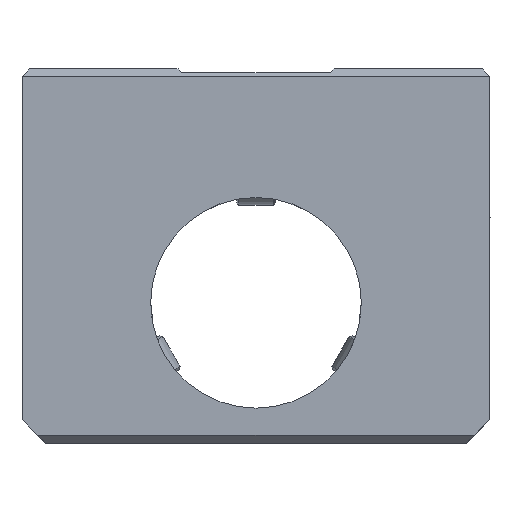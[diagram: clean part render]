
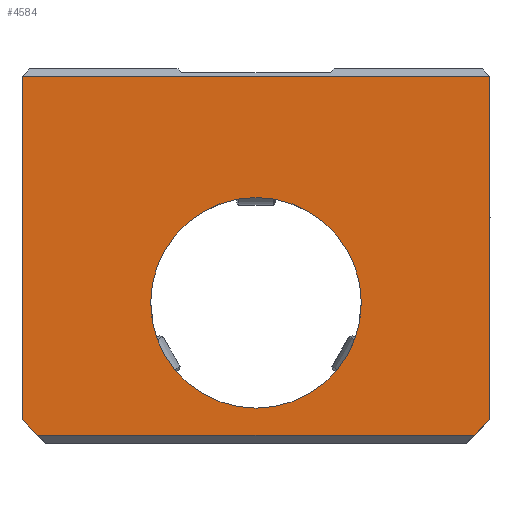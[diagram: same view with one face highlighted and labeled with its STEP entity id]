
A CAD part, left-side view. The second image highlights one B-rep face of the part: STEP entity #4584.
In plain terms, the highlighted planar face has unit normal (-1, 0, 0).
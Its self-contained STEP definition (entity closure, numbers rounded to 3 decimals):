
#3659=CARTESIAN_POINT('',(-65.0,-30.0,29.));
#3660=VERTEX_POINT('',#3659);
#3669=CARTESIAN_POINT('',(-65.0,-30.0,-15.));
#3670=VERTEX_POINT('',#3669);
#3671=CARTESIAN_POINT('',(-65.0,-30.0,29.));
#3672=DIRECTION('',(0.0,0.0,-1.0));
#3673=VECTOR('',#3672,44.0);
#3674=LINE('',#3671,#3673);
#3675=EDGE_CURVE('',#3660,#3670,#3674,.T.);
#4377=CARTESIAN_POINT('',(-65.0,30.0,29.));
#4378=VERTEX_POINT('',#4377);
#4385=CARTESIAN_POINT('',(-65.0,30.0,29.));
#4386=DIRECTION('',(0.0,-1.0,0.0));
#4387=VECTOR('',#4386,60.0);
#4388=LINE('',#4385,#4387);
#4389=EDGE_CURVE('',#4378,#3660,#4388,.T.);
#4506=CARTESIAN_POINT('',(-65.0,-28.,-17.));
#4507=VERTEX_POINT('',#4506);
#4508=CARTESIAN_POINT('',(-65.0,-30.0,-15.));
#4509=DIRECTION('',(0.0,0.707,-0.707));
#4510=VECTOR('',#4509,2.828);
#4511=LINE('',#4508,#4510);
#4512=EDGE_CURVE('',#3670,#4507,#4511,.T.);
#4529=CARTESIAN_POINT('',(-65.0,28.,-17.));
#4530=VERTEX_POINT('',#4529);
#4539=CARTESIAN_POINT('',(-65.0,-28.,-17.));
#4540=DIRECTION('',(0.0,1.0,0.0));
#4541=VECTOR('',#4540,56.);
#4542=LINE('',#4539,#4541);
#4543=EDGE_CURVE('',#4507,#4530,#4542,.T.);
#4548=CARTESIAN_POINT('',(-65.0,-20.,29.75));
#4549=DIRECTION('',(1.0,0.0,0.0));
#4550=DIRECTION('',(0.0,0.0,-1.0));
#4551=AXIS2_PLACEMENT_3D('',#4548,#4549,#4550);
#4552=PLANE('',#4551);
#4553=ORIENTED_EDGE('',*,*,#4543,.F.);
#4554=ORIENTED_EDGE('',*,*,#4512,.F.);
#4555=ORIENTED_EDGE('',*,*,#3675,.F.);
#4556=ORIENTED_EDGE('',*,*,#4389,.F.);
#4557=CARTESIAN_POINT('',(-65.0,30.0,-15.));
#4558=VERTEX_POINT('',#4557);
#4559=CARTESIAN_POINT('',(-65.0,30.0,-15.));
#4560=DIRECTION('',(0.0,0.0,1.0));
#4561=VECTOR('',#4560,44.0);
#4562=LINE('',#4559,#4561);
#4563=EDGE_CURVE('',#4558,#4378,#4562,.T.);
#4564=ORIENTED_EDGE('',*,*,#4563,.F.);
#4565=CARTESIAN_POINT('',(-65.0,28.,-17.));
#4566=DIRECTION('',(0.0,0.707,0.707));
#4567=VECTOR('',#4566,2.828);
#4568=LINE('',#4565,#4567);
#4569=EDGE_CURVE('',#4530,#4558,#4568,.T.);
#4570=ORIENTED_EDGE('',*,*,#4569,.F.);
#4571=EDGE_LOOP('',(#4553,#4554,#4555,#4556,#4564,#4570));
#4572=FACE_OUTER_BOUND('',#4571,.T.);
#4573=CARTESIAN_POINT('',(-65.0,13.5,0.));
#4574=VERTEX_POINT('',#4573);
#4575=CARTESIAN_POINT('',(-65.0,0.0,0.));
#4576=DIRECTION('',(1.0,0.0,0.0));
#4577=DIRECTION('',(0.0,-1.0,0.0));
#4578=AXIS2_PLACEMENT_3D('',#4575,#4576,#4577);
#4579=CIRCLE('',#4578,13.5);
#4580=EDGE_CURVE('',#4574,#4574,#4579,.T.);
#4581=ORIENTED_EDGE('',*,*,#4580,.T.);
#4582=EDGE_LOOP('',(#4581));
#4583=FACE_BOUND('',#4582,.T.);
#4584=ADVANCED_FACE('',(#4572,#4583),#4552,.F.);
